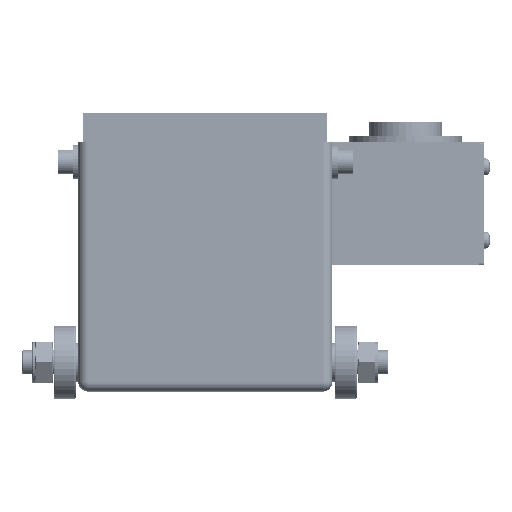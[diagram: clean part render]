
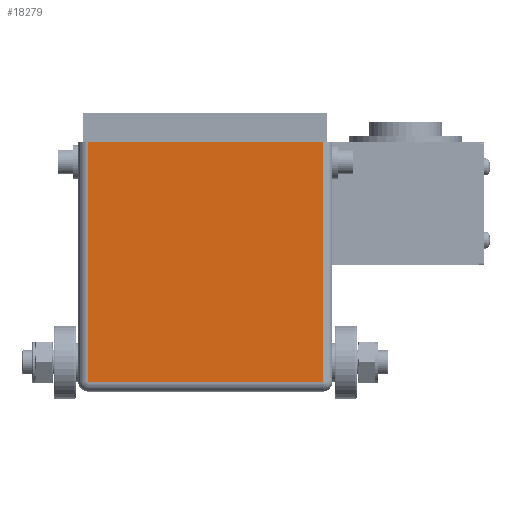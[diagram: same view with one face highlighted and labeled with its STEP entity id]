
A CAD part, front view. The second image highlights one B-rep face of the part: STEP entity #18279.
In plain terms, the highlighted planar face has unit normal (0, -1, 0).
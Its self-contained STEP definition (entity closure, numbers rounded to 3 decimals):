
#1985=PLANE('',#19927);
#2695=FACE_OUTER_BOUND('',#3909,.T.);
#3909=EDGE_LOOP('',(#15322,#15323,#15324,#15325));
#4724=LINE('',#27232,#6232);
#4726=LINE('',#27240,#6234);
#4728=LINE('',#27250,#6236);
#5590=LINE('',#29543,#7098);
#6232=VECTOR('',#21478,10.);
#6234=VECTOR('',#21486,10.);
#6236=VECTOR('',#21500,10.);
#7098=VECTOR('',#23858,10.);
#8708=VERTEX_POINT('',#27229);
#8709=VERTEX_POINT('',#27231);
#8712=VERTEX_POINT('',#27239);
#8714=VERTEX_POINT('',#27247);
#10322=EDGE_CURVE('',#8708,#8709,#4724,.T.);
#10326=EDGE_CURVE('',#8709,#8712,#4726,.T.);
#10332=EDGE_CURVE('',#8712,#8714,#4728,.T.);
#11478=EDGE_CURVE('',#8708,#8714,#5590,.T.);
#15322=ORIENTED_EDGE('',*,*,#10322,.F.);
#15323=ORIENTED_EDGE('',*,*,#11478,.T.);
#15324=ORIENTED_EDGE('',*,*,#10332,.F.);
#15325=ORIENTED_EDGE('',*,*,#10326,.F.);
#18279=ADVANCED_FACE('',(#2695),#1985,.F.);
#19927=AXIS2_PLACEMENT_3D('',#29546,#23862,#23863);
#21478=DIRECTION('',(0.,0.,-1.));
#21486=DIRECTION('',(-1.,0.,0.));
#21500=DIRECTION('',(0.,0.,1.));
#23858=DIRECTION('',(-1.,0.,0.));
#23862=DIRECTION('center_axis',(0.,1.,0.));
#23863=DIRECTION('ref_axis',(1.,0.,0.));
#27229=CARTESIAN_POINT('',(48.,0.,102.));
#27231=CARTESIAN_POINT('',(48.,0.,4.));
#27232=CARTESIAN_POINT('',(48.,0.,76.5));
#27239=CARTESIAN_POINT('',(-48.,0.,4.));
#27240=CARTESIAN_POINT('',(24.,0.,4.));
#27247=CARTESIAN_POINT('',(-48.,0.,102.));
#27250=CARTESIAN_POINT('',(-48.,0.,27.5));
#29543=CARTESIAN_POINT('',(-50.,0.,102.));
#29546=CARTESIAN_POINT('Origin',(0.,0.,51.));
